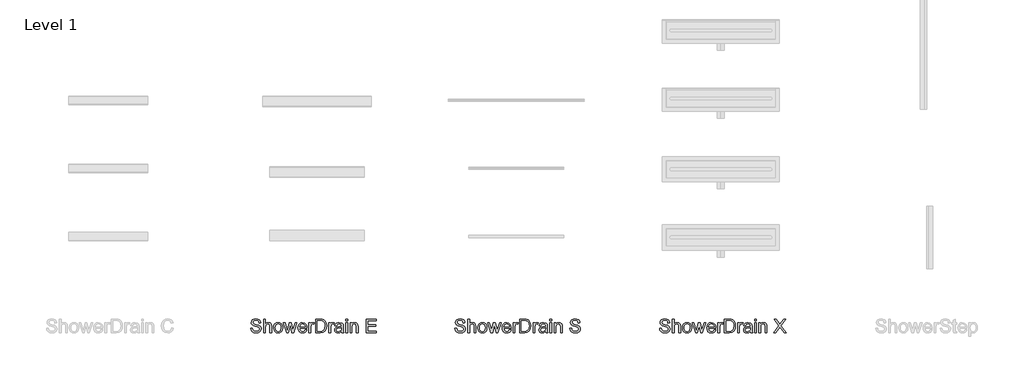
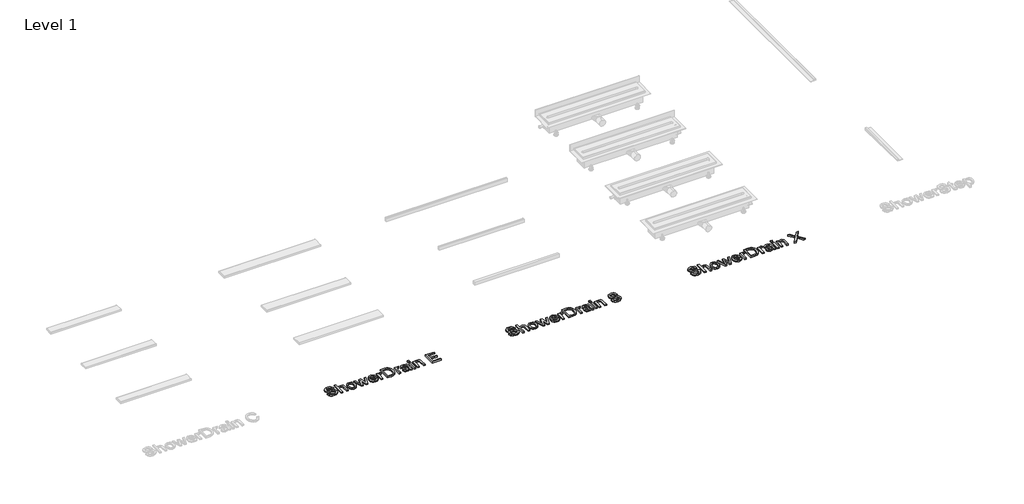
# One storey, part 2 of 3: 3 proxies.
"""IFC4 building model written with IfcOpenShell, lengths in millimetres."""

from ifc_helpers import new_model, si_unit, origin, origin_with_axes, place, context, project, spatial, polyline, outline, extrude, element, save

model = new_model("IFC4")

# Units and contexts
model_context = context("Model", 3, world=origin())
ifc_project = project(units=[si_unit("LENGTHUNIT", "METRE", prefix="MILLI")], contexts=[model_context])

# Site, building, storey
site = spatial("IfcSite", under=ifc_project)
building = spatial("IfcBuilding", under=site)
storey = spatial("IfcBuildingStorey", under=building, Name="Level 1", Elevation=0.0)

# Proxies
placement = place(None, origin())
element("IfcBuildingElementProxy", 1, Name="100mm ACO", ObjectType="100mm ACO", at=placement, inside=storey, context=model_context, shape_type="SweptSolid", body=[
    extrude(outline(polyline([(2107.4074074, -629.6296296), (2105.396412, -620.7356771), (2100.9259259, -614.3663194), (2084.6064815, -609.2592593), (2068.9814815, -613.2378472), (2064.4675926, -618.1242766), (2062.962963, -624.8263889), (2067.4334491, -634.8813657), (2085.619213, -641.1747685), (2105.4542824, -646.6579861), (2118.6053241, -655.5844907), (2122.7068866, -662.6663773), (2124.0740741, -671.8171296), (2121.5675637, -683.6552373), (2114.0480324, -693.3015046), (2102.4992766, -699.714265), (2087.9050926, -701.8518519), (2069.921875, -699.4791667), (2057.1180556, -692.3611111), (2049.3055556, -681.4670139), (2046.2962963, -667.7662037), (2059.2592593, -666.6666667), (2061.8887442, -677.5426794), (2068.0989583, -684.9971065), (2076.9350405, -689.3048322), (2087.4421296, -690.7407407), (2104.5717593, -686.009838), (2109.4762731, -680.4361979), (2111.1111111, -673.1770833), (2109.4220197, -665.8492477), (2104.3547454, -660.8217593), (2081.0763889, -653.3709491), (2066.8655961, -649.0306713), (2057.2771991, -643.1568287), (2051.8192998, -635.5287905), (2050.0, -625.9259259), (2052.2822627, -614.9305556), (2059.1290509, -606.0185185), (2069.9110243, -600.1157407), (2083.9988426, -598.1481481), (2098.5604745, -600.1302083), (2109.9537037, -606.0763889), (2117.4623843, -615.6684028), (2120.3703704, -628.587963), (2107.4074074, -629.6296296)])), origin_with_axes(), (0.0, 0.0, 1.0), 10.0),
    extrude(outline(polyline([(2200.0, -700.0), (2187.037037, -700.0), (2187.037037, -653.2986111), (2183.3478009, -639.7135417), (2172.337963, -635.1851852), (2159.4039352, -640.5237269), (2155.1287616, -647.9564525), (2153.7037037, -659.5775463), (2153.7037037, -700.0), (2140.7407407, -700.0), (2140.7407407, -600.0), (2153.7037037, -600.0), (2153.7037037, -635.8217593), (2163.4042245, -628.3998843), (2175.2604167, -625.9259259), (2188.5416667, -628.7905093), (2197.4392361, -637.6012731), (2200.0, -654.1087963), (2200.0, -700.0)])), origin_with_axes(), (0.0, 0.0, 1.0), 10.0),
    extrude(outline(polyline([(2248.119213, -625.9259259), (2261.2955729, -628.3203125), (2272.0052083, -635.5034722), (2279.1124132, -647.0992477), (2281.4814815, -662.7314815), (2278.9171007, -681.0040509), (2271.2239583, -692.9976852), (2260.3190104, -699.6383102), (2248.119213, -701.8518519), (2235.5287905, -699.5768229), (2224.7251157, -692.7517361), (2217.29239, -680.9859664), (2214.8148148, -663.8888889), (2217.2092014, -647.1715856), (2224.3923611, -635.3298611), (2235.1128472, -628.2769097), (2248.119213, -625.9259259)]), holes=[polyline([(2248.119213, -692.5925926), (2256.92636, -690.5852141), (2263.3246528, -684.5630787), (2268.5185185, -663.4259259), (2267.0500579, -651.1429398), (2262.6446759, -642.3032407), (2256.0763889, -636.9646991), (2248.119213, -635.1851852), (2240.0065104, -636.9900174), (2233.4924769, -642.4045139), (2229.2064525, -651.3925058), (2227.7777778, -663.9178241), (2229.2317708, -676.3997396), (2233.59375, -685.3732639), (2240.1331019, -690.7877604), (2248.119213, -692.5925926)])]), origin_with_axes(), (0.0, 0.0, 1.0), 10.0),
    extrude(outline(polyline([(2385.6481481, -627.7777778), (2361.4293981, -700.0), (2349.1608796, -700.0), (2338.6574074, -656.5972222), (2337.3553241, -650.7378472), (2336.1111111, -644.3287037), (2323.3506944, -700.0), (2311.1111111, -700.0), (2286.5740741, -627.7777778), (2298.119213, -627.7777778), (2315.7407407, -685.0115741), (2317.8530093, -675.2604167), (2328.8773148, -627.7777778), (2343.4606481, -627.7777778), (2352.1990741, -665.6539352), (2356.25, -683.4490741), (2374.1030093, -627.7777778), (2385.6481481, -627.7777778)])), origin_with_axes(), (0.0, 0.0, 1.0), 10.0),
    extrude(outline(polyline([(2459.2592593, -666.6666667), (2405.5555556, -666.6666667), (2407.6280382, -677.7922454), (2412.3408565, -685.9375), (2419.1225405, -690.9288194), (2427.4016204, -692.5925926), (2439.0769676, -688.9033565), (2446.2962963, -677.7777778), (2459.2592593, -679.2824074), (2454.8828125, -688.9033565), (2447.9456019, -696.0069444), (2438.7008102, -700.390625), (2427.4016204, -701.8518519), (2412.8146701, -699.3453414), (2401.8084491, -691.8258102), (2394.8965567, -679.9660012), (2392.5925926, -664.4386574), (2394.8133681, -648.900463), (2401.4756944, -636.6030093), (2412.1744792, -628.5951968), (2426.5046296, -625.9259259), (2441.724537, -629.3836806), (2454.1521991, -641.1603009), (2457.9824942, -651.6963252), (2459.2592593, -666.6666667)]), holes=[polyline([(2446.2962963, -657.4074074), (2444.212963, -647.2511574), (2439.4675926, -640.3935185), (2426.1863426, -635.1851852), (2418.3304398, -636.7332176), (2412.0081019, -641.3773148), (2405.5555556, -657.4074074), (2446.2962963, -657.4074074)])]), origin_with_axes(), (0.0, 0.0, 1.0), 10.0),
    extrude(outline(polyline([(2512.962963, -628.7615741), (2508.912037, -637.037037), (2500.4050926, -635.1851852), (2494.6108218, -636.8127894), (2490.4224537, -641.6956019), (2487.037037, -659.9247685), (2487.037037, -700.0), (2474.0740741, -700.0), (2474.0740741, -627.7777778), (2485.1851852, -627.7777778), (2485.1851852, -638.4837963), (2492.115162, -629.0653935), (2500.5497685, -625.9259259), (2512.962963, -628.7615741)])), origin_with_axes(), (0.0, 0.0, 1.0), 10.0),
    extrude(outline(polyline([(2522.2222222, -600.0), (2556.25, -600.0), (2571.6435185, -600.9259259), (2583.9699074, -605.4253472), (2594.2563657, -615.2777778), (2601.1863426, -629.7019676), (2603.7037037, -649.4502315), (2601.1140046, -669.5855035), (2593.3449074, -685.7783565), (2579.260706, -696.4445891), (2557.7256944, -700.0), (2522.2222222, -700.0), (2522.2222222, -600.0)]), holes=[polyline([(2535.1851852, -688.8888889), (2556.5104167, -688.8888889), (2568.1568287, -688.0497685), (2578.5590278, -683.521412), (2587.2829861, -671.4265046), (2590.7407407, -649.1608796), (2589.4097222, -634.8668981), (2584.5196759, -622.7575231), (2576.3454861, -614.7569444), (2567.3466435, -611.6608796), (2556.1053241, -611.1111111), (2535.1851852, -611.1111111), (2535.1851852, -688.8888889)])]), origin_with_axes(), (0.0, 0.0, 1.0), 10.0),
    extrude(outline(polyline([(2659.2592593, -628.7615741), (2655.2083333, -637.037037), (2646.7013889, -635.1851852), (2640.9071181, -636.8127894), (2636.71875, -641.6956019), (2633.3333333, -659.9247685), (2633.3333333, -700.0), (2620.3703704, -700.0), (2620.3703704, -627.7777778), (2631.4814815, -627.7777778), (2631.4814815, -638.4837963), (2638.4114583, -629.0653935), (2646.8460648, -625.9259259), (2659.2592593, -628.7615741)])), origin_with_axes(), (0.0, 0.0, 1.0), 10.0),
    extrude(outline(polyline([(2729.6296296, -700.0), (2716.6666667, -700.0), (2712.962963, -691.2615741), (2700.4701968, -699.2042824), (2687.0081019, -701.8518519), (2677.0218461, -700.4050926), (2669.4010417, -696.0648148), (2664.5724826, -689.3518519), (2662.962963, -680.787037), (2664.5399306, -672.479022), (2669.2708333, -665.7841435), (2677.9007523, -660.8904803), (2691.1747685, -657.9861111), (2702.5173611, -656.25), (2712.962963, -653.7037037), (2712.6302083, -645.6741898), (2710.6915509, -640.7986111), (2705.5266204, -636.7332176), (2695.9490741, -635.1851852), (2683.8686343, -638.3246528), (2677.7777778, -650.0), (2664.8148148, -648.4085648), (2668.3702257, -638.599537), (2675.0434028, -631.568287), (2684.8271123, -627.3365162), (2697.7141204, -625.9259259), (2716.9704861, -629.7887731), (2724.5225694, -639.1059028), (2725.9259259, -653.1539352), (2725.9259259, -669.6759259), (2726.4756944, -689.9305556), (2729.6296296, -700.0)]), holes=[polyline([(2712.962963, -667.5925926), (2712.962963, -662.962963), (2689.6846065, -668.287037), (2679.3655961, -672.3451968), (2675.9259259, -680.5844907), (2679.6296296, -689.2071759), (2690.306713, -692.5925926), (2706.1197917, -686.9212963), (2711.2521701, -679.2534722), (2712.962963, -667.5925926)])]), origin_with_axes(), (0.0, 0.0, 1.0), 10.0),
    extrude(outline(polyline([(2757.4074074, -700.0), (2744.4444444, -700.0), (2744.4444444, -627.7777778), (2757.4074074, -627.7777778), (2757.4074074, -700.0)])), origin_with_axes(), (0.0, 0.0, 1.0), 10.0),
    extrude(outline(polyline([(2757.4074074, -612.962963), (2744.4444444, -612.962963), (2744.4444444, -600.0), (2757.4074074, -600.0), (2757.4074074, -612.962963)])), origin_with_axes(), (0.0, 0.0, 1.0), 10.0),
    extrude(outline(polyline([(2835.1851852, -700.0), (2822.2222222, -700.0), (2822.2222222, -655.0347222), (2818.359375, -639.4386574), (2807.6099537, -635.1851852), (2797.583912, -637.9050926), (2790.8709491, -645.5729167), (2788.8888889, -659.5775463), (2788.8888889, -700.0), (2775.9259259, -700.0), (2775.9259259, -627.7777778), (2787.037037, -627.7777778), (2787.037037, -637.818287), (2796.9328704, -628.8917824), (2810.1851852, -625.9259259), (2821.556713, -627.9803241), (2830.3530093, -634.1290509), (2834.3605324, -642.8674769), (2835.1851852, -655.4108796), (2835.1851852, -700.0)])), origin_with_axes(), (0.0, 0.0, 1.0), 10.0),
    extrude(outline(polyline([(2968.5185185, -700.0), (2894.4444444, -700.0), (2894.4444444, -600.0), (2966.6666667, -600.0), (2966.6666667, -611.1111111), (2907.4074074, -611.1111111), (2907.4074074, -642.5925926), (2962.962963, -642.5925926), (2962.962963, -653.7037037), (2907.4074074, -653.7037037), (2907.4074074, -688.8888889), (2968.5185185, -688.8888889), (2968.5185185, -700.0)])), origin_with_axes(), (0.0, 0.0, 1.0), 10.0),
])
element("IfcBuildingElementProxy", 2, Name="100mm ACO", ObjectType="100mm ACO", at=placement, inside=storey, context=model_context, shape_type="SweptSolid", body=[
    extrude(outline(polyline([(3607.4074074, -629.6296296), (3605.396412, -620.7356771), (3600.9259259, -614.3663194), (3584.6064815, -609.2592593), (3568.9814815, -613.2378472), (3564.4675926, -618.1242766), (3562.962963, -624.8263889), (3567.4334491, -634.8813657), (3585.619213, -641.1747685), (3605.4542824, -646.6579861), (3618.6053241, -655.5844907), (3622.7068866, -662.6663773), (3624.0740741, -671.8171296), (3621.5675637, -683.6552373), (3614.0480324, -693.3015046), (3602.4992766, -699.714265), (3587.9050926, -701.8518519), (3569.921875, -699.4791667), (3557.1180556, -692.3611111), (3549.3055556, -681.4670139), (3546.2962963, -667.7662037), (3559.2592593, -666.6666667), (3561.8887442, -677.5426794), (3568.0989583, -684.9971065), (3576.9350405, -689.3048322), (3587.4421296, -690.7407407), (3604.5717593, -686.009838), (3609.4762731, -680.4361979), (3611.1111111, -673.1770833), (3609.4220197, -665.8492477), (3604.3547454, -660.8217593), (3581.0763889, -653.3709491), (3566.8655961, -649.0306713), (3557.2771991, -643.1568287), (3551.8192998, -635.5287905), (3550.0, -625.9259259), (3552.2822627, -614.9305556), (3559.1290509, -606.0185185), (3569.9110243, -600.1157407), (3583.9988426, -598.1481481), (3598.5604745, -600.1302083), (3609.9537037, -606.0763889), (3617.4623843, -615.6684028), (3620.3703704, -628.587963), (3607.4074074, -629.6296296)])), origin_with_axes(), (0.0, 0.0, 1.0), 10.0),
    extrude(outline(polyline([(3700.0, -700.0), (3687.037037, -700.0), (3687.037037, -653.2986111), (3683.3478009, -639.7135417), (3672.337963, -635.1851852), (3659.4039352, -640.5237269), (3655.1287616, -647.9564525), (3653.7037037, -659.5775463), (3653.7037037, -700.0), (3640.7407407, -700.0), (3640.7407407, -600.0), (3653.7037037, -600.0), (3653.7037037, -635.8217593), (3663.4042245, -628.3998843), (3675.2604167, -625.9259259), (3688.5416667, -628.7905093), (3697.4392361, -637.6012731), (3700.0, -654.1087963), (3700.0, -700.0)])), origin_with_axes(), (0.0, 0.0, 1.0), 10.0),
    extrude(outline(polyline([(3748.119213, -625.9259259), (3761.2955729, -628.3203125), (3772.0052083, -635.5034722), (3779.1124132, -647.0992477), (3781.4814815, -662.7314815), (3778.9171007, -681.0040509), (3771.2239583, -692.9976852), (3760.3190104, -699.6383102), (3748.119213, -701.8518519), (3735.5287905, -699.5768229), (3724.7251157, -692.7517361), (3717.29239, -680.9859664), (3714.8148148, -663.8888889), (3717.2092014, -647.1715856), (3724.3923611, -635.3298611), (3735.1128472, -628.2769097), (3748.119213, -625.9259259)]), holes=[polyline([(3748.119213, -692.5925926), (3756.92636, -690.5852141), (3763.3246528, -684.5630787), (3768.5185185, -663.4259259), (3767.0500579, -651.1429398), (3762.6446759, -642.3032407), (3756.0763889, -636.9646991), (3748.119213, -635.1851852), (3740.0065104, -636.9900174), (3733.4924769, -642.4045139), (3729.2064525, -651.3925058), (3727.7777778, -663.9178241), (3729.2317708, -676.3997396), (3733.59375, -685.3732639), (3740.1331019, -690.7877604), (3748.119213, -692.5925926)])]), origin_with_axes(), (0.0, 0.0, 1.0), 10.0),
    extrude(outline(polyline([(3885.6481481, -627.7777778), (3861.4293981, -700.0), (3849.1608796, -700.0), (3838.6574074, -656.5972222), (3837.3553241, -650.7378472), (3836.1111111, -644.3287037), (3823.3506944, -700.0), (3811.1111111, -700.0), (3786.5740741, -627.7777778), (3798.119213, -627.7777778), (3815.7407407, -685.0115741), (3817.8530093, -675.2604167), (3828.8773148, -627.7777778), (3843.4606481, -627.7777778), (3852.1990741, -665.6539352), (3856.25, -683.4490741), (3874.1030093, -627.7777778), (3885.6481481, -627.7777778)])), origin_with_axes(), (0.0, 0.0, 1.0), 10.0),
    extrude(outline(polyline([(3959.2592593, -666.6666667), (3905.5555556, -666.6666667), (3907.6280382, -677.7922454), (3912.3408565, -685.9375), (3919.1225405, -690.9288194), (3927.4016204, -692.5925926), (3939.0769676, -688.9033565), (3946.2962963, -677.7777778), (3959.2592593, -679.2824074), (3954.8828125, -688.9033565), (3947.9456019, -696.0069444), (3938.7008102, -700.390625), (3927.4016204, -701.8518519), (3912.8146701, -699.3453414), (3901.8084491, -691.8258102), (3894.8965567, -679.9660012), (3892.5925926, -664.4386574), (3894.8133681, -648.900463), (3901.4756944, -636.6030093), (3912.1744792, -628.5951968), (3926.5046296, -625.9259259), (3941.724537, -629.3836806), (3954.1521991, -641.1603009), (3957.9824942, -651.6963252), (3959.2592593, -666.6666667)]), holes=[polyline([(3946.2962963, -657.4074074), (3944.212963, -647.2511574), (3939.4675926, -640.3935185), (3926.1863426, -635.1851852), (3918.3304398, -636.7332176), (3912.0081019, -641.3773148), (3905.5555556, -657.4074074), (3946.2962963, -657.4074074)])]), origin_with_axes(), (0.0, 0.0, 1.0), 10.0),
    extrude(outline(polyline([(4012.962963, -628.7615741), (4008.912037, -637.037037), (4000.4050926, -635.1851852), (3994.6108218, -636.8127894), (3990.4224537, -641.6956019), (3987.037037, -659.9247685), (3987.037037, -700.0), (3974.0740741, -700.0), (3974.0740741, -627.7777778), (3985.1851852, -627.7777778), (3985.1851852, -638.4837963), (3992.115162, -629.0653935), (4000.5497685, -625.9259259), (4012.962963, -628.7615741)])), origin_with_axes(), (0.0, 0.0, 1.0), 10.0),
    extrude(outline(polyline([(4022.2222222, -600.0), (4056.25, -600.0), (4071.6435185, -600.9259259), (4083.9699074, -605.4253472), (4094.2563657, -615.2777778), (4101.1863426, -629.7019676), (4103.7037037, -649.4502315), (4101.1140046, -669.5855035), (4093.3449074, -685.7783565), (4079.260706, -696.4445891), (4057.7256944, -700.0), (4022.2222222, -700.0), (4022.2222222, -600.0)]), holes=[polyline([(4035.1851852, -688.8888889), (4056.5104167, -688.8888889), (4068.1568287, -688.0497685), (4078.5590278, -683.521412), (4087.2829861, -671.4265046), (4090.7407407, -649.1608796), (4089.4097222, -634.8668981), (4084.5196759, -622.7575231), (4076.3454861, -614.7569444), (4067.3466435, -611.6608796), (4056.1053241, -611.1111111), (4035.1851852, -611.1111111), (4035.1851852, -688.8888889)])]), origin_with_axes(), (0.0, 0.0, 1.0), 10.0),
    extrude(outline(polyline([(4159.2592593, -628.7615741), (4155.2083333, -637.037037), (4146.7013889, -635.1851852), (4140.9071181, -636.8127894), (4136.71875, -641.6956019), (4133.3333333, -659.9247685), (4133.3333333, -700.0), (4120.3703704, -700.0), (4120.3703704, -627.7777778), (4131.4814815, -627.7777778), (4131.4814815, -638.4837963), (4138.4114583, -629.0653935), (4146.8460648, -625.9259259), (4159.2592593, -628.7615741)])), origin_with_axes(), (0.0, 0.0, 1.0), 10.0),
    extrude(outline(polyline([(4229.6296296, -700.0), (4216.6666667, -700.0), (4212.962963, -691.2615741), (4200.4701968, -699.2042824), (4187.0081019, -701.8518519), (4177.0218461, -700.4050926), (4169.4010417, -696.0648148), (4164.5724826, -689.3518519), (4162.962963, -680.787037), (4164.5399306, -672.479022), (4169.2708333, -665.7841435), (4177.9007523, -660.8904803), (4191.1747685, -657.9861111), (4202.5173611, -656.25), (4212.962963, -653.7037037), (4212.6302083, -645.6741898), (4210.6915509, -640.7986111), (4205.5266204, -636.7332176), (4195.9490741, -635.1851852), (4183.8686343, -638.3246528), (4177.7777778, -650.0), (4164.8148148, -648.4085648), (4168.3702257, -638.599537), (4175.0434028, -631.568287), (4184.8271123, -627.3365162), (4197.7141204, -625.9259259), (4216.9704861, -629.7887731), (4224.5225694, -639.1059028), (4225.9259259, -653.1539352), (4225.9259259, -669.6759259), (4226.4756944, -689.9305556), (4229.6296296, -700.0)]), holes=[polyline([(4212.962963, -667.5925926), (4212.962963, -662.962963), (4189.6846065, -668.287037), (4179.3655961, -672.3451968), (4175.9259259, -680.5844907), (4179.6296296, -689.2071759), (4190.306713, -692.5925926), (4206.1197917, -686.9212963), (4211.2521701, -679.2534722), (4212.962963, -667.5925926)])]), origin_with_axes(), (0.0, 0.0, 1.0), 10.0),
    extrude(outline(polyline([(4257.4074074, -700.0), (4244.4444444, -700.0), (4244.4444444, -627.7777778), (4257.4074074, -627.7777778), (4257.4074074, -700.0)])), origin_with_axes(), (0.0, 0.0, 1.0), 10.0),
    extrude(outline(polyline([(4257.4074074, -612.962963), (4244.4444444, -612.962963), (4244.4444444, -600.0), (4257.4074074, -600.0), (4257.4074074, -612.962963)])), origin_with_axes(), (0.0, 0.0, 1.0), 10.0),
    extrude(outline(polyline([(4335.1851852, -700.0), (4322.2222222, -700.0), (4322.2222222, -655.0347222), (4318.359375, -639.4386574), (4307.6099537, -635.1851852), (4297.583912, -637.9050926), (4290.8709491, -645.5729167), (4288.8888889, -659.5775463), (4288.8888889, -700.0), (4275.9259259, -700.0), (4275.9259259, -627.7777778), (4287.037037, -627.7777778), (4287.037037, -637.818287), (4296.9328704, -628.8917824), (4310.1851852, -625.9259259), (4321.556713, -627.9803241), (4330.3530093, -634.1290509), (4334.3605324, -642.8674769), (4335.1851852, -655.4108796), (4335.1851852, -700.0)])), origin_with_axes(), (0.0, 0.0, 1.0), 10.0),
    extrude(outline(polyline([(4451.8518519, -629.6296296), (4449.8408565, -620.7356771), (4445.3703704, -614.3663194), (4429.0509259, -609.2592593), (4413.4259259, -613.2378472), (4408.912037, -618.1242766), (4407.4074074, -624.8263889), (4411.8778935, -634.8813657), (4430.0636574, -641.1747685), (4449.8987269, -646.6579861), (4463.0497685, -655.5844907), (4467.151331, -662.6663773), (4468.5185185, -671.8171296), (4466.0120081, -683.6552373), (4458.4924769, -693.3015046), (4446.9437211, -699.714265), (4432.349537, -701.8518519), (4414.3663194, -699.4791667), (4401.5625, -692.3611111), (4393.75, -681.4670139), (4390.7407407, -667.7662037), (4403.7037037, -666.6666667), (4406.3331887, -677.5426794), (4412.5434028, -684.9971065), (4421.379485, -689.3048322), (4431.8865741, -690.7407407), (4449.0162037, -686.009838), (4453.9207176, -680.4361979), (4455.5555556, -673.1770833), (4453.8664641, -665.8492477), (4448.7991898, -660.8217593), (4425.5208333, -653.3709491), (4411.3100405, -649.0306713), (4401.7216435, -643.1568287), (4396.2637442, -635.5287905), (4394.4444444, -625.9259259), (4396.7267072, -614.9305556), (4403.5734954, -606.0185185), (4414.3554687, -600.1157407), (4428.443287, -598.1481481), (4443.004919, -600.1302083), (4454.3981481, -606.0763889), (4461.9068287, -615.6684028), (4464.8148148, -628.587963), (4451.8518519, -629.6296296)])), origin_with_axes(), (0.0, 0.0, 1.0), 10.0),
])
element("IfcBuildingElementProxy", 3, Name="100mm ACO", ObjectType="100mm ACO", at=placement, inside=storey, context=model_context, shape_type="SweptSolid", body=[
    extrude(outline(polyline([(5111.1111111, -629.6296296), (5109.1001157, -620.7356771), (5104.6296296, -614.3663194), (5088.3101852, -609.2592593), (5072.6851852, -613.2378472), (5068.1712963, -618.1242766), (5066.6666667, -624.8263889), (5071.1371528, -634.8813657), (5089.3229167, -641.1747685), (5109.1579861, -646.6579861), (5122.3090278, -655.5844907), (5126.4105903, -662.6663773), (5127.7777778, -671.8171296), (5125.2712674, -683.6552373), (5117.7517361, -693.3015046), (5106.2029803, -699.714265), (5091.6087963, -701.8518519), (5073.6255787, -699.4791667), (5060.8217593, -692.3611111), (5053.0092593, -681.4670139), (5050.0, -667.7662037), (5062.962963, -666.6666667), (5065.5924479, -677.5426794), (5071.802662, -684.9971065), (5080.6387442, -689.3048322), (5091.1458333, -690.7407407), (5108.275463, -686.009838), (5113.1799769, -680.4361979), (5114.8148148, -673.1770833), (5113.1257234, -665.8492477), (5108.0584491, -660.8217593), (5084.7800926, -653.3709491), (5070.5692998, -649.0306713), (5060.9809028, -643.1568287), (5055.5230035, -635.5287905), (5053.7037037, -625.9259259), (5055.9859664, -614.9305556), (5062.8327546, -606.0185185), (5073.614728, -600.1157407), (5087.7025463, -598.1481481), (5102.2641782, -600.1302083), (5113.6574074, -606.0763889), (5121.166088, -615.6684028), (5124.0740741, -628.587963), (5111.1111111, -629.6296296)])), origin_with_axes(), (0.0, 0.0, 1.0), 10.0),
    extrude(outline(polyline([(5203.7037037, -700.0), (5190.7407407, -700.0), (5190.7407407, -653.2986111), (5187.0515046, -639.7135417), (5176.0416667, -635.1851852), (5163.1076389, -640.5237269), (5158.8324653, -647.9564525), (5157.4074074, -659.5775463), (5157.4074074, -700.0), (5144.4444444, -700.0), (5144.4444444, -600.0), (5157.4074074, -600.0), (5157.4074074, -635.8217593), (5167.1079282, -628.3998843), (5178.9641204, -625.9259259), (5192.2453704, -628.7905093), (5201.1429398, -637.6012731), (5203.7037037, -654.1087963), (5203.7037037, -700.0)])), origin_with_axes(), (0.0, 0.0, 1.0), 10.0),
    extrude(outline(polyline([(5251.8229167, -625.9259259), (5264.9992766, -628.3203125), (5275.708912, -635.5034722), (5282.8161169, -647.0992477), (5285.1851852, -662.7314815), (5282.6208044, -681.0040509), (5274.927662, -692.9976852), (5264.0227141, -699.6383102), (5251.8229167, -701.8518519), (5239.2324942, -699.5768229), (5228.4288194, -692.7517361), (5220.9960938, -680.9859664), (5218.5185185, -663.8888889), (5220.9129051, -647.1715856), (5228.0960648, -635.3298611), (5238.8165509, -628.2769097), (5251.8229167, -625.9259259)]), holes=[polyline([(5251.8229167, -692.5925926), (5260.6300637, -690.5852141), (5267.0283565, -684.5630787), (5272.2222222, -663.4259259), (5270.7537616, -651.1429398), (5266.3483796, -642.3032407), (5259.7800926, -636.9646991), (5251.8229167, -635.1851852), (5243.7102141, -636.9900174), (5237.1961806, -642.4045139), (5232.9101563, -651.3925058), (5231.4814815, -663.9178241), (5232.9354745, -676.3997396), (5237.2974537, -685.3732639), (5243.8368056, -690.7877604), (5251.8229167, -692.5925926)])]), origin_with_axes(), (0.0, 0.0, 1.0), 10.0),
    extrude(outline(polyline([(5389.3518519, -627.7777778), (5365.1331019, -700.0), (5352.8645833, -700.0), (5342.3611111, -656.5972222), (5341.0590278, -650.7378472), (5339.8148148, -644.3287037), (5327.0543981, -700.0), (5314.8148148, -700.0), (5290.2777778, -627.7777778), (5301.8229167, -627.7777778), (5319.4444444, -685.0115741), (5321.556713, -675.2604167), (5332.5810185, -627.7777778), (5347.1643519, -627.7777778), (5355.9027778, -665.6539352), (5359.9537037, -683.4490741), (5377.806713, -627.7777778), (5389.3518519, -627.7777778)])), origin_with_axes(), (0.0, 0.0, 1.0), 10.0),
    extrude(outline(polyline([(5462.962963, -666.6666667), (5409.2592593, -666.6666667), (5411.3317419, -677.7922454), (5416.0445602, -685.9375), (5422.8262442, -690.9288194), (5431.1053241, -692.5925926), (5442.7806713, -688.9033565), (5450.0, -677.7777778), (5462.962963, -679.2824074), (5458.5865162, -688.9033565), (5451.6493056, -696.0069444), (5442.4045139, -700.390625), (5431.1053241, -701.8518519), (5416.5183738, -699.3453414), (5405.5121528, -691.8258102), (5398.6002604, -679.9660012), (5396.2962963, -664.4386574), (5398.5170718, -648.900463), (5405.1793981, -636.6030093), (5415.8781829, -628.5951968), (5430.2083333, -625.9259259), (5445.4282407, -629.3836806), (5457.8559028, -641.1603009), (5461.6861979, -651.6963252), (5462.962963, -666.6666667)]), holes=[polyline([(5450.0, -657.4074074), (5447.9166667, -647.2511574), (5443.1712963, -640.3935185), (5429.8900463, -635.1851852), (5422.0341435, -636.7332176), (5415.7118056, -641.3773148), (5409.2592593, -657.4074074), (5450.0, -657.4074074)])]), origin_with_axes(), (0.0, 0.0, 1.0), 10.0),
    extrude(outline(polyline([(5516.6666667, -628.7615741), (5512.6157407, -637.037037), (5504.1087963, -635.1851852), (5498.3145255, -636.8127894), (5494.1261574, -641.6956019), (5490.7407407, -659.9247685), (5490.7407407, -700.0), (5477.7777778, -700.0), (5477.7777778, -627.7777778), (5488.8888889, -627.7777778), (5488.8888889, -638.4837963), (5495.8188657, -629.0653935), (5504.2534722, -625.9259259), (5516.6666667, -628.7615741)])), origin_with_axes(), (0.0, 0.0, 1.0), 10.0),
    extrude(outline(polyline([(5525.9259259, -600.0), (5559.9537037, -600.0), (5575.3472222, -600.9259259), (5587.6736111, -605.4253472), (5597.9600694, -615.2777778), (5604.8900463, -629.7019676), (5607.4074074, -649.4502315), (5604.8177083, -669.5855035), (5597.0486111, -685.7783565), (5582.9644097, -696.4445891), (5561.4293981, -700.0), (5525.9259259, -700.0), (5525.9259259, -600.0)]), holes=[polyline([(5538.8888889, -688.8888889), (5560.2141204, -688.8888889), (5571.8605324, -688.0497685), (5582.2627315, -683.521412), (5590.9866898, -671.4265046), (5594.4444444, -649.1608796), (5593.1134259, -634.8668981), (5588.2233796, -622.7575231), (5580.0491898, -614.7569444), (5571.0503472, -611.6608796), (5559.8090278, -611.1111111), (5538.8888889, -611.1111111), (5538.8888889, -688.8888889)])]), origin_with_axes(), (0.0, 0.0, 1.0), 10.0),
    extrude(outline(polyline([(5662.962963, -628.7615741), (5658.912037, -637.037037), (5650.4050926, -635.1851852), (5644.6108218, -636.8127894), (5640.4224537, -641.6956019), (5637.037037, -659.9247685), (5637.037037, -700.0), (5624.0740741, -700.0), (5624.0740741, -627.7777778), (5635.1851852, -627.7777778), (5635.1851852, -638.4837963), (5642.115162, -629.0653935), (5650.5497685, -625.9259259), (5662.962963, -628.7615741)])), origin_with_axes(), (0.0, 0.0, 1.0), 10.0),
    extrude(outline(polyline([(5733.3333333, -700.0), (5720.3703704, -700.0), (5716.6666667, -691.2615741), (5704.1739005, -699.2042824), (5690.7118056, -701.8518519), (5680.7255498, -700.4050926), (5673.1047454, -696.0648148), (5668.2761863, -689.3518519), (5666.6666667, -680.787037), (5668.2436343, -672.479022), (5672.974537, -665.7841435), (5681.604456, -660.8904803), (5694.8784722, -657.9861111), (5706.2210648, -656.25), (5716.6666667, -653.7037037), (5716.333912, -645.6741898), (5714.3952546, -640.7986111), (5709.2303241, -636.7332176), (5699.6527778, -635.1851852), (5687.572338, -638.3246528), (5681.4814815, -650.0), (5668.5185185, -648.4085648), (5672.0739294, -638.599537), (5678.7471065, -631.568287), (5688.530816, -627.3365162), (5701.4178241, -625.9259259), (5720.6741898, -629.7887731), (5728.2262731, -639.1059028), (5729.6296296, -653.1539352), (5729.6296296, -669.6759259), (5730.1793981, -689.9305556), (5733.3333333, -700.0)]), holes=[polyline([(5716.6666667, -667.5925926), (5716.6666667, -662.962963), (5693.3883102, -668.287037), (5683.0692998, -672.3451968), (5679.6296296, -680.5844907), (5683.3333333, -689.2071759), (5694.0104167, -692.5925926), (5709.8234954, -686.9212963), (5714.9558738, -679.2534722), (5716.6666667, -667.5925926)])]), origin_with_axes(), (0.0, 0.0, 1.0), 10.0),
    extrude(outline(polyline([(5761.1111111, -700.0), (5748.1481481, -700.0), (5748.1481481, -627.7777778), (5761.1111111, -627.7777778), (5761.1111111, -700.0)])), origin_with_axes(), (0.0, 0.0, 1.0), 10.0),
    extrude(outline(polyline([(5761.1111111, -612.962963), (5748.1481481, -612.962963), (5748.1481481, -600.0), (5761.1111111, -600.0), (5761.1111111, -612.962963)])), origin_with_axes(), (0.0, 0.0, 1.0), 10.0),
    extrude(outline(polyline([(5838.8888889, -700.0), (5825.9259259, -700.0), (5825.9259259, -655.0347222), (5822.0630787, -639.4386574), (5811.3136574, -635.1851852), (5801.2876157, -637.9050926), (5794.5746528, -645.5729167), (5792.5925926, -659.5775463), (5792.5925926, -700.0), (5779.6296296, -700.0), (5779.6296296, -627.7777778), (5790.7407407, -627.7777778), (5790.7407407, -637.818287), (5800.6365741, -628.8917824), (5813.8888889, -625.9259259), (5825.2604167, -627.9803241), (5834.056713, -634.1290509), (5838.0642361, -642.8674769), (5838.8888889, -655.4108796), (5838.8888889, -700.0)])), origin_with_axes(), (0.0, 0.0, 1.0), 10.0),
    extrude(outline(polyline([(5979.6296296, -700.0), (5964.0046296, -700.0), (5943.0844907, -671.4699074), (5934.0277778, -658.7384259), (5902.8356481, -700.0), (5887.037037, -700.0), (5925.9837963, -648.0902778), (5890.7407407, -600.0), (5906.3657407, -600.0), (5928.6458333, -630.4108796), (5933.8541667, -637.5578704), (5962.0081019, -600.0), (5977.7777778, -600.0), (5941.6666667, -648.1770833), (5979.6296296, -700.0)])), origin_with_axes(), (0.0, 0.0, 1.0), 10.0),
])

save(model, "model.ifc")
